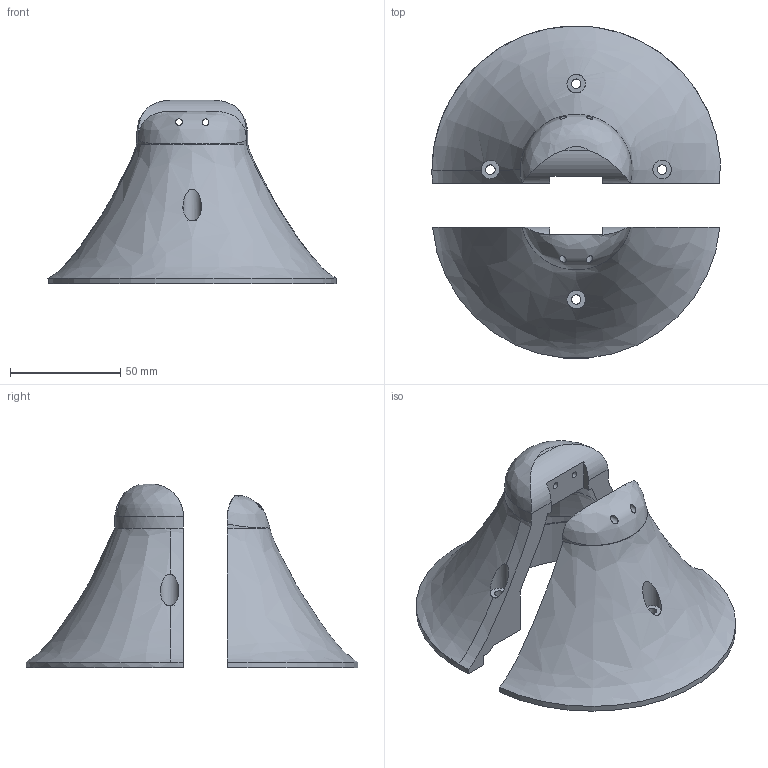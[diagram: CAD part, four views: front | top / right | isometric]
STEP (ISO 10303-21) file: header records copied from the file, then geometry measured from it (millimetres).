
FILE_DESCRIPTION(/* description */ (''),/* implementation_level */ '2;1');
FILE_NAME(/* name */ 'Load Cell ALL.step',/* time_stamp */ '2024-08-31T16:33:40-04:00',/* author */ (''),/* organization */ (''),/* preprocessor_version */ 'ST-DEVELOPER v20',/* originating_system */ 'Autodesk Translation Framework v13.14.0.145',/* authorisation */ '');
FILE_SCHEMA (('AUTOMOTIVE_DESIGN { 1 0 10303 214 3 1 1 }'));
Length unit declared in the file: millimetre
Products named in the file (1): Load Cell Object
Bounding box: 130.85 x 150.75 x 83.54 mm (x, y, z)
Volume: 218693 mm3; surface area: 63389.8 mm2
Topology: 2 solids, 2 shells, 113 faces, 304 edges, 197 vertices
Faces by surface type: cylinder 44, plane 35, bspline 26, cone 8
Full cylindrical faces by diameter (mm): 3 x4, 4.309 x2, 4.326 x2, 8.433 x4, 8.446 x1, 8.511 x1
Entity records: 6880 total; most frequent: CARTESIAN_POINT 4282, ORIENTED_EDGE 610, DIRECTION 430, EDGE_CURVE 305, VERTEX_POINT 197, AXIS2_PLACEMENT_3D 171, EDGE_LOOP 135, B_SPLINE_CURVE_WITH_KNOTS 125
